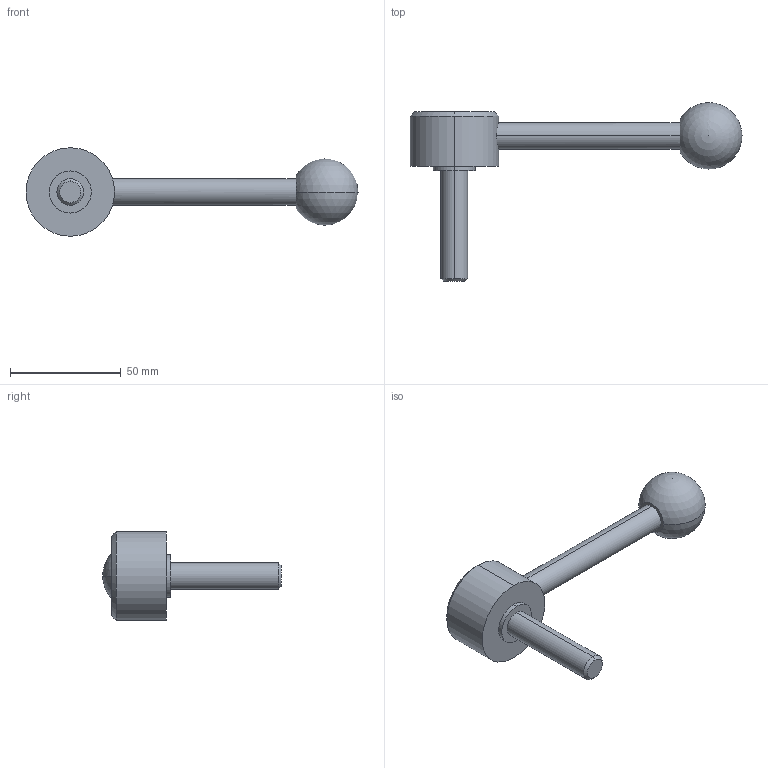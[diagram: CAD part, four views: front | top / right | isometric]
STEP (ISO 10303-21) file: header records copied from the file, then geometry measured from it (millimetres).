
FILE_DESCRIPTION (( 'STEP AP214' ), '1' );
FILE_NAME ('125.5-40-M12-50-D.step', '2020-02-18T11:36:24', ( '' ), ( '' ), 'SwSTEP 2.0', 'SolidWorks 2019', '' );
FILE_SCHEMA (( 'AUTOMOTIVE_DESIGN' ));
Length unit declared in the file: millimetre
Products named in the file (1): 125.5-40-M12-50-D
Bounding box: 150 x 80.7 x 40 mm (x, y, z)
Volume: 60117.3 mm3; surface area: 13125 mm2
Topology: 1 solids, 1 shells, 22 faces, 47 edges, 30 vertices
Faces by surface type: cylinder 10, plane 6, cone 4, sphere 2
Entity records: 748 total; most frequent: CARTESIAN_POINT 176, DIRECTION 112, ORIENTED_EDGE 84, AXIS2_PLACEMENT_3D 49, EDGE_CURVE 42, VERTEX_POINT 27, EDGE_LOOP 27, CIRCLE 26
